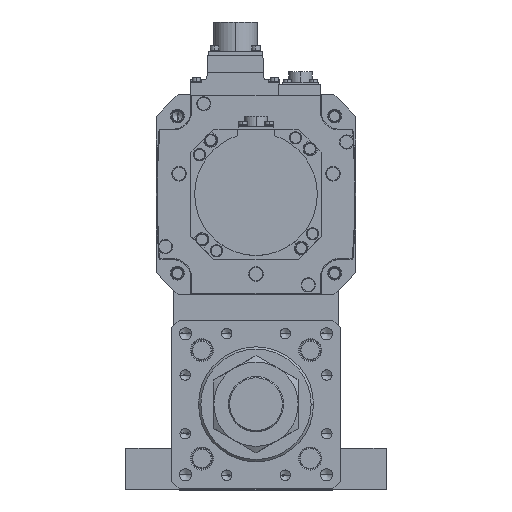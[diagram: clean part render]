
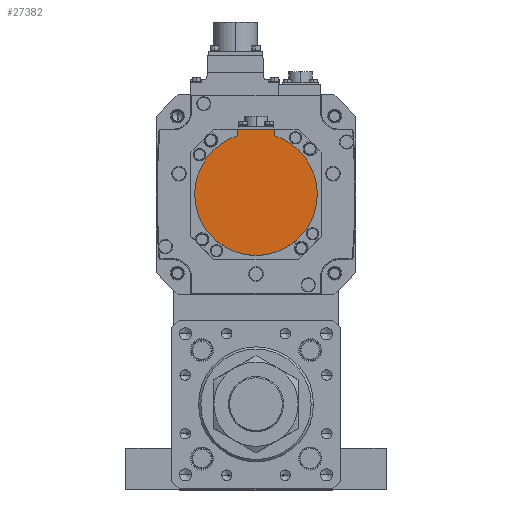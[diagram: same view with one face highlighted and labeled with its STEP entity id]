
A CAD part, top view. The second image highlights one B-rep face of the part: STEP entity #27382.
In plain terms, the highlighted planar face has unit normal (0, 0, 1) as drawn and (0, 0, -1) by its records, which use the part's own axes.
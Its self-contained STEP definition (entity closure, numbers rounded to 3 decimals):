
#2130 = VERTEX_POINT ( 'NONE', #15725 ) ;
#2574 = VERTEX_POINT ( 'NONE', #27289 ) ;
#2689 = ORIENTED_EDGE ( 'NONE', *, *, #2701, .F. ) ;
#2701 = EDGE_CURVE ( 'NONE', #2130, #13386, #13111, .T. ) ;
#2794 = CARTESIAN_POINT ( 'NONE',  ( 12., -42.5, -167. ) ) ;
#2869 = LINE ( 'NONE', #27201, #32993 ) ;
#3173 = CARTESIAN_POINT ( 'NONE',  ( -12., -38.158, -167. ) ) ;
#3731 = DIRECTION ( 'NONE',  ( 0., 1., 0. ) ) ;
#4323 = DIRECTION ( 'NONE',  ( 1., 0., 0. ) ) ;
#4350 = ORIENTED_EDGE ( 'NONE', *, *, #20680, .F. ) ;
#4766 = CARTESIAN_POINT ( 'NONE',  ( 12., -38.158, -167. ) ) ;
#5452 = VERTEX_POINT ( 'NONE', #3173 ) ;
#6639 = VERTEX_POINT ( 'NONE', #2794 ) ;
#7118 = DIRECTION ( 'NONE',  ( 0., 0., 1. ) ) ;
#7586 = EDGE_CURVE ( 'NONE', #6639, #2574, #18169, .T. ) ;
#8206 = CARTESIAN_POINT ( 'NONE',  ( 0., 0., -167. ) ) ;
#9561 = CARTESIAN_POINT ( 'NONE',  ( -40., 0., -167. ) ) ;
#13111 = CIRCLE ( 'NONE', #27615, 40. ) ;
#13386 = VERTEX_POINT ( 'NONE', #9561 ) ;
#13768 = PLANE ( 'NONE',  #20979 ) ;
#14423 = CARTESIAN_POINT ( 'NONE',  ( 0., 0., -167. ) ) ;
#15439 = CIRCLE ( 'NONE', #16399, 40. ) ;
#15519 = EDGE_CURVE ( 'NONE', #13386, #5452, #35743, .T. ) ;
#15725 = CARTESIAN_POINT ( 'NONE',  ( 40., 0., -167. ) ) ;
#16063 = CARTESIAN_POINT ( 'NONE',  ( 0., 0., -167. ) ) ;
#16399 = AXIS2_PLACEMENT_3D ( 'NONE', #14423, #21020, #32899 ) ;
#16741 = DIRECTION ( 'NONE',  ( 0., 0., 1. ) ) ;
#16772 = DIRECTION ( 'NONE',  ( 0., 0., 1. ) ) ;
#16903 = CARTESIAN_POINT ( 'NONE',  ( 0., -1.249, -167. ) ) ;
#17502 = EDGE_CURVE ( 'NONE', #2574, #5452, #2869, .T. ) ;
#18169 = LINE ( 'NONE', #28364, #32350 ) ;
#18330 = ORIENTED_EDGE ( 'NONE', *, *, #15519, .F. ) ;
#18567 = DIRECTION ( 'NONE',  ( 0., 1., 0. ) ) ;
#19900 = VERTEX_POINT ( 'NONE', #4766 ) ;
#20680 = EDGE_CURVE ( 'NONE', #19900, #2130, #15439, .T. ) ;
#20979 = AXIS2_PLACEMENT_3D ( 'NONE', #16903, #16772, #31722 ) ;
#21020 = DIRECTION ( 'NONE',  ( 0., 0., 1. ) ) ;
#22856 = DIRECTION ( 'NONE',  ( -1., 0., 0. ) ) ;
#24030 = EDGE_LOOP ( 'NONE', ( #24702, #18330, #2689, #4350, #28573, #30728 ) ) ;
#24702 = ORIENTED_EDGE ( 'NONE', *, *, #17502, .T. ) ;
#27201 = CARTESIAN_POINT ( 'NONE',  ( -12., -40.329, -167. ) ) ;
#27289 = CARTESIAN_POINT ( 'NONE',  ( -12., -42.5, -167. ) ) ;
#27382 = ADVANCED_FACE ( 'NONE', ( #30062 ), #13768, .F. ) ;
#27615 = AXIS2_PLACEMENT_3D ( 'NONE', #16063, #7118, #4323 ) ;
#28364 = CARTESIAN_POINT ( 'NONE',  ( 0., -42.5, -167. ) ) ;
#28491 = AXIS2_PLACEMENT_3D ( 'NONE', #8206, #16741, #28627 ) ;
#28573 = ORIENTED_EDGE ( 'NONE', *, *, #32175, .F. ) ;
#28627 = DIRECTION ( 'NONE',  ( 1., 0., 0. ) ) ;
#29787 = VECTOR ( 'NONE', #18567, 1000. ) ;
#30062 = FACE_OUTER_BOUND ( 'NONE', #24030, .T. ) ;
#30728 = ORIENTED_EDGE ( 'NONE', *, *, #7586, .T. ) ;
#31722 = DIRECTION ( 'NONE',  ( 1., 0., 0. ) ) ;
#32061 = LINE ( 'NONE', #36037, #29787 ) ;
#32175 = EDGE_CURVE ( 'NONE', #6639, #19900, #32061, .T. ) ;
#32350 = VECTOR ( 'NONE', #22856, 1000. ) ;
#32899 = DIRECTION ( 'NONE',  ( 1., 0., 0. ) ) ;
#32993 = VECTOR ( 'NONE', #3731, 1000. ) ;
#35743 = CIRCLE ( 'NONE', #28491, 40. ) ;
#36037 = CARTESIAN_POINT ( 'NONE',  ( 12., -1.249, -167. ) ) ;
